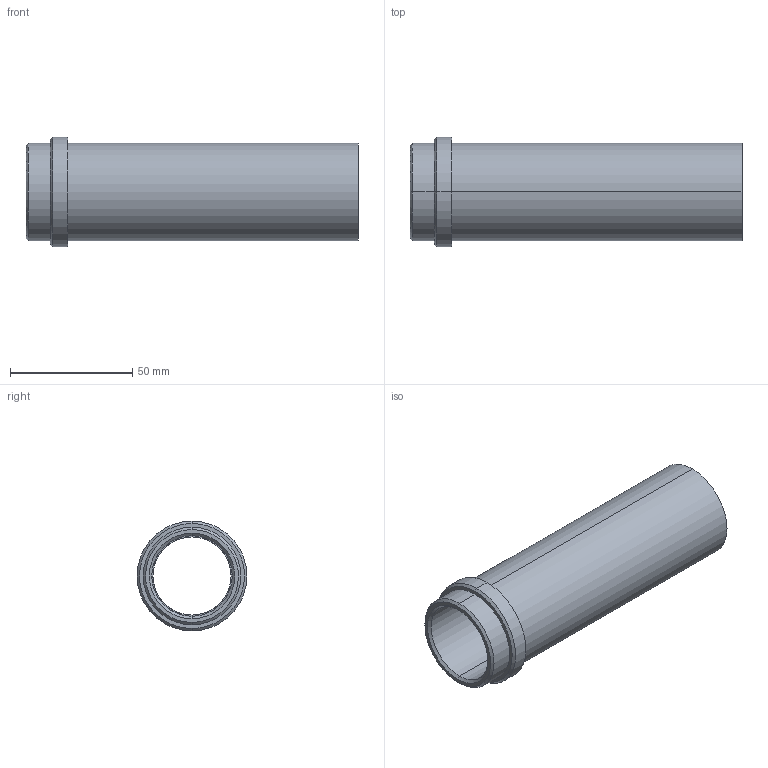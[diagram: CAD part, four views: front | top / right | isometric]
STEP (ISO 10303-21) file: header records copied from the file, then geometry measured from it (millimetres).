
FILE_DESCRIPTION(('CATIA V5 STEP Exchange'),'2;1');
FILE_NAME('C:\Users\Utente\Desktop\IO LAVORO\3D X SITO CF\X SITO\PLASTICA\358\358-32x136.stp','2021-04-09T13:24:08+00:00',('none'),('none'),'CATIA Version 5 Release 20 GA (IN-10)','CATIA V5 STEP AP203','none');
FILE_SCHEMA(('CONFIG_CONTROL_DESIGN'));
Length unit declared in the file: millimetre
Products named in the file (1): 358-32X136
Bounding box: 136 x 45 x 45 mm (x, y, z)
Volume: 59912.8 mm3; surface area: 32368 mm2
Topology: 1 solids, 1 shells, 23 faces, 74 edges, 56 vertices
Faces by surface type: cylinder 10, cone 6, plane 5, torus 2
Entity records: 1066 total; most frequent: CARTESIAN_POINT 378, ORIENTED_EDGE 148, DIRECTION 104, EDGE_CURVE 74, AXIS2_PLACEMENT_3D 66, VERTEX_POINT 56, CIRCLE 42, EDGE_LOOP 28
